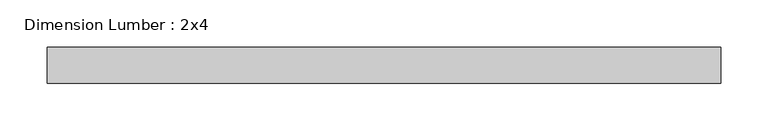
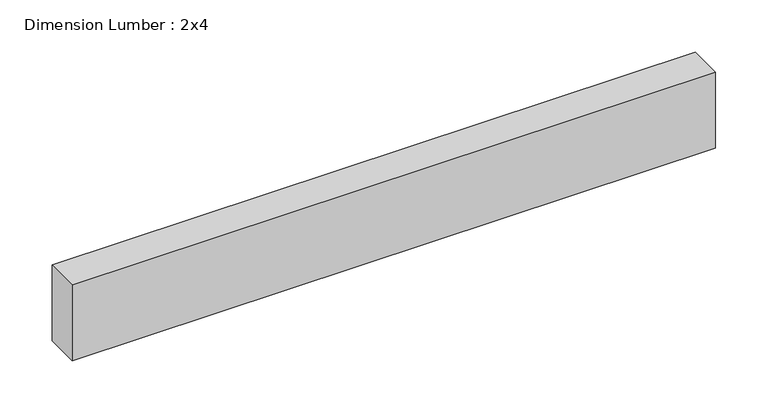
"""IFC4 building model written with IfcOpenShell, lengths in millimetres: beam geometry, Dimension Lumber : 2x4."""

import ifcopenshell
import ifcopenshell.guid

model = None  # the IFC model being written
_history = None  # IfcOwnerHistory: only IFC2X3 demands one
_inside = {}  # id of a spatial element -> (the spatial element, [elements in it])
_under = {}  # id of a project, library or spatial element -> (it, [spatial elements below it])
_declared = {}  # id of a project -> (the project, [libraries it declares])
_typed = {}  # id of a type object -> (the type object, [elements of that type])
_made_of = {}  # id of a material, layer set ... -> (it, [elements and type objects made of it])


def new_model(schema):
    """Start an empty IFC model of exactly this schema.

    Asked for "IFC4X3", IfcOpenShell would pick the latest addendum, in which some entities
    have other attributes; the version numbers below select the first issue.
    IFC2X3 requires an IfcOwnerHistory on every rooted entity: one is made here for all.
    """
    global model, _history
    if schema == "IFC4X3":
        model = ifcopenshell.file(schema_version=(4, 3, 0, 0))
    else:
        model = ifcopenshell.file(schema=schema)
    _inside.clear()
    _under.clear()
    _declared.clear()
    _typed.clear()
    _made_of.clear()
    _history = None
    if model.schema == "IFC2X3":
        org = make("IfcOrganization", Name="unknown")
        user = make(
            "IfcPersonAndOrganization",
            ThePerson=make("IfcPerson", FamilyName="unknown"),
            TheOrganization=org,
        )
        app = make(
            "IfcApplication",
            ApplicationDeveloper=org,
            Version="unknown",
            ApplicationFullName="unknown",
            ApplicationIdentifier="unknown",
        )
        _history = make(
            "IfcOwnerHistory",
            OwningUser=user,
            OwningApplication=app,
            ChangeAction="ADDED",
            CreationDate=0,
        )
    return model


def make(cls, **values):
    """One entity of the class cls with the attributes given. An attribute that is None is left unset."""
    return model.create_entity(
        cls, **{name: value for name, value in values.items() if value is not None}
    )


def rooted(cls, **values):
    """An entity with a GlobalId (a new one), such as an element, a storey or a relation."""
    return make(cls, GlobalId=ifcopenshell.guid.new(), OwnerHistory=_history, **values)


def si_unit(unit_type, name, prefix=None):
    """IfcSIUnit, for example si_unit("LENGTHUNIT", "METRE", prefix="MILLI")."""
    return make("IfcSIUnit", UnitType=unit_type, Prefix=prefix, Name=name)


def assignment(units):
    """IfcUnitAssignment: the units of a project."""
    return None if units is None else make("IfcUnitAssignment", Units=units)


def point(xyz):
    """IfcCartesianPoint."""
    return None if xyz is None else make("IfcCartesianPoint", Coordinates=xyz)


def direction(xyz):
    """IfcDirection."""
    return None if xyz is None else make("IfcDirection", DirectionRatios=xyz)


def frame(location, z_axis=None, x_axis=None):
    """IfcAxis2Placement3D, a coordinate frame: its origin and axes. An axis left out is left unset."""
    return make(
        "IfcAxis2Placement3D",
        Location=point(location),
        Axis=direction(z_axis),
        RefDirection=direction(x_axis),
    )


def origin():
    """The frame at (0, 0, 0) with its axes left unset."""
    return frame((0.0, 0.0, 0.0))


def place(relative_to, where):
    """IfcLocalPlacement: puts the frame where relative to a parent placement (None: the world)."""
    return make(
        "IfcLocalPlacement", PlacementRelTo=relative_to, RelativePlacement=where
    )


def context(
    kind, dimensions, precision=None, world=None, true_north=None, identifier=None
):
    """IfcGeometricRepresentationContext, for example the 3D "Model" context."""
    return make(
        "IfcGeometricRepresentationContext",
        ContextIdentifier=identifier,
        ContextType=kind,
        CoordinateSpaceDimension=dimensions,
        Precision=precision,
        WorldCoordinateSystem=world,
        TrueNorth=true_north,
    )


def project(units=None, contexts=None):
    """IfcProject with its units and contexts."""
    return rooted(
        "IfcProject",
        Name="project",
        RepresentationContexts=contexts,
        UnitsInContext=assignment(units),
    )


def spatial(cls, under=None, at=None, **own):
    """A site, building, storey or space (cls), placed at a placement, below another one or the project."""
    s = rooted(cls, ObjectPlacement=at, **own)
    if under is not None:
        _under.setdefault(under.id(), (under, []))[1].append(s)
    return s


def polyline(points):
    """IfcPolyline through the points."""
    return make("IfcPolyline", Points=[point(p) for p in points])


def outline(outer, holes=None, kind="AREA"):
    """IfcArbitraryClosedProfileDef: a profile drawn as a closed curve; with holes, ...WithVoids."""
    if holes is None:
        return make("IfcArbitraryClosedProfileDef", ProfileType=kind, OuterCurve=outer)
    return make(
        "IfcArbitraryProfileDefWithVoids",
        ProfileType=kind,
        OuterCurve=outer,
        InnerCurves=holes,
    )


def extrude(swept, where, along, depth):
    """IfcExtrudedAreaSolid: the profile swept, set in the frame where, extruded along a direction by depth."""
    return make(
        "IfcExtrudedAreaSolid",
        SweptArea=swept,
        Position=where,
        ExtrudedDirection=direction(along),
        Depth=depth,
    )


def shape(context_of_items, identifier, shape_type, items):
    """IfcShapeRepresentation: the items that make up one representation, for example the "Body"."""
    return make(
        "IfcShapeRepresentation",
        ContextOfItems=context_of_items,
        RepresentationIdentifier=identifier,
        RepresentationType=shape_type,
        Items=items,
    )


def source(mapping_origin, context_of_items, identifier, shape_type, items):
    """IfcRepresentationMap: a shape defined once, which mapped items show again and again."""
    return make(
        "IfcRepresentationMap",
        MappingOrigin=mapping_origin,
        MappedRepresentation=shape(context_of_items, identifier, shape_type, items),
    )


def transform(
    local_origin,
    x_axis=None,
    y_axis=None,
    z_axis=None,
    scale=None,
    scale2=None,
    scale3=None,
    uniform=True,
):
    """IfcCartesianTransformationOperator3D, or its non-uniform kind. x_axis, y_axis, z_axis: its Axis1, 2, 3."""
    if uniform:
        return make(
            "IfcCartesianTransformationOperator3D",
            Axis1=direction(x_axis),
            Axis2=direction(y_axis),
            LocalOrigin=point(local_origin),
            Scale=scale,
            Axis3=direction(z_axis),
        )
    return make(
        "IfcCartesianTransformationOperator3DnonUniform",
        Axis1=direction(x_axis),
        Axis2=direction(y_axis),
        LocalOrigin=point(local_origin),
        Scale=scale,
        Axis3=direction(z_axis),
        Scale2=scale2,
        Scale3=scale3,
    )


def mapped(mapping_source, mapping_target):
    """IfcMappedItem: shows the shape of a source again, moved by a transform."""
    return make(
        "IfcMappedItem", MappingSource=mapping_source, MappingTarget=mapping_target
    )


def made_of(thing, what):
    """Note that an element or type object is made of a material, layer set ...; save() writes the relation."""
    if what is not None:
        _made_of.setdefault(what.id(), (what, []))[1].append(thing)
    return thing


def element(
    cls,
    number,
    at=None,
    inside=None,
    cuts=None,
    type_object=None,
    material=None,
    context=None,
    identifier="Body",
    shape_type=None,
    held_by="IfcProductDefinitionShape",
    body=None,
    shapes=None,
    **own,
):
    """One element of the class cls, such as IfcWall. Its Tag is "e" and its number.

    at: its placement. inside: the storey or other place that contains it. cuts: it is an
    opening in that element (IfcRelVoidsElement). A single representation is given by context,
    identifier, shape_type and body (its items); several are given by shapes. held_by: the class
    of the entity that holds the representations. save() writes the other relations.
    """
    e = rooted(cls, Tag="e%d" % number, ObjectPlacement=at, **own)
    if body is not None:
        shapes = [shape(context, identifier, shape_type, body)]
    if shapes is not None:
        e.Representation = make(held_by, Representations=shapes)
    if inside is not None:
        _inside.setdefault(inside.id(), (inside, []))[1].append(e)
    if cuts is not None:
        rooted(
            "IfcRelVoidsElement", RelatingBuildingElement=cuts, RelatedOpeningElement=e
        )
    if type_object is not None:
        _typed.setdefault(type_object.id(), (type_object, []))[1].append(e)
    return made_of(e, material)


def aggregate(whole, parts):
    """IfcRelAggregates: a whole, such as a stair, and the parts it consists of."""
    return rooted("IfcRelAggregates", RelatingObject=whole, RelatedObjects=parts)


def save(model, path):
    """Write the relations noted so far, then the file.

    IfcRelAggregates (storeys below a building ...), IfcRelContainedInSpatialStructure (elements
    in a storey), IfcRelDefinesByType, IfcRelAssociatesMaterial and IfcRelDeclares: one each for
    every whole, place, type object, material and project.
    """
    for whole, parts in _under.values():
        aggregate(whole, parts)
    for where, things in _inside.values():
        rooted(
            "IfcRelContainedInSpatialStructure",
            RelatedElements=things,
            RelatingStructure=where,
        )
    for kind, things in _typed.values():
        rooted("IfcRelDefinesByType", RelatedObjects=things, RelatingType=kind)
    for what, things in _made_of.values():
        rooted("IfcRelAssociatesMaterial", RelatedObjects=things, RelatingMaterial=what)
    for by, libraries in _declared.values():
        rooted("IfcRelDeclares", RelatingContext=by, RelatedDefinitions=libraries)
    model.write(path)


def dimension_lumber_2x4_c80fc31c(model_context):
    return source(origin(), model_context, "Body", "SweptSolid", [
        extrude(outline(polyline([(355.6, 19.05), (355.6, -19.05), (-355.6, -19.05), (-355.6, 19.05), (355.6, 19.05)])), frame((0.0, 0.0, -44.45), z_axis=(0.0, 0.0, 1.0), x_axis=(1.0, 0.0, 0.0)), (0.0, 0.0, 1.0), 88.9),
    ])


if __name__ == "__main__":
    model = new_model("IFC4")
    model_context = context("Model", 3, world=origin())
    ifc_project = project(units=[si_unit("LENGTHUNIT", "METRE", prefix="MILLI")], contexts=[model_context])
    site = spatial("IfcSite", under=ifc_project)
    building = spatial("IfcBuilding", under=site)
    placement = place(None, origin())
    dimension_lumber_2x4_shape = dimension_lumber_2x4_c80fc31c(model_context)
    element("IfcBeam", 1, ObjectType="Dimension Lumber : 2x4", at=placement, inside=building, context=model_context, shape_type="MappedRepresentation", body=[
        mapped(dimension_lumber_2x4_shape, transform((0.0, 0.0, 0.0), x_axis=(1.0, 0.0, 0.0), y_axis=(0.0, 1.0, 0.0), z_axis=(0.0, 0.0, 1.0))),
    ])
    save(model, "model.ifc")
